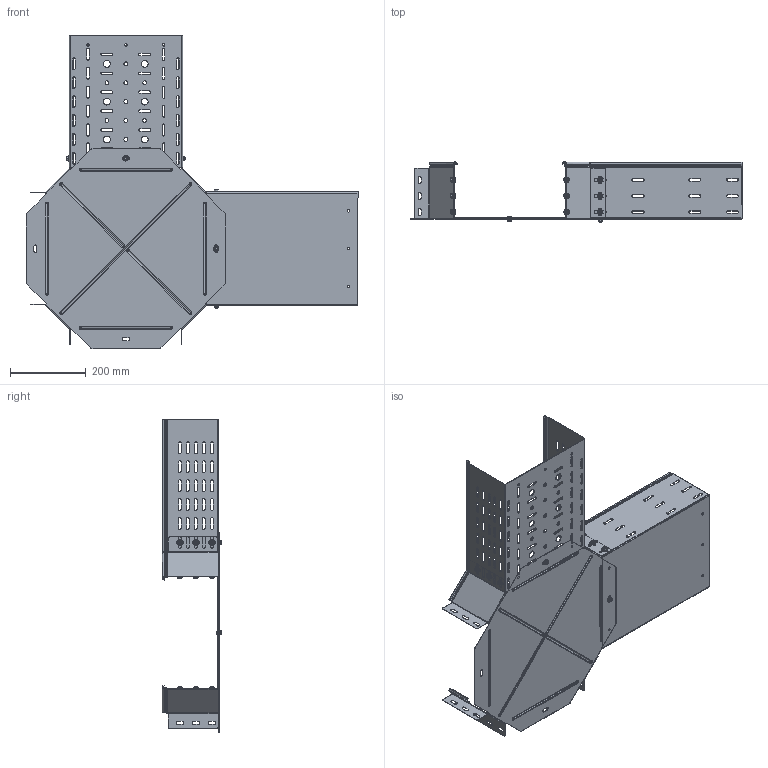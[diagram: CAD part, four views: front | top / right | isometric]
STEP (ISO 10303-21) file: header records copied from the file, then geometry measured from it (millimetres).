
FILE_DESCRIPTION (( 'STEP AP214' ), '1' );
FILE_NAME ('ﾓﾑﾕﾐ+ﾓﾋ(ﾍ)+ﾓﾋ(ﾏ)_150.STEP', '2016-10-06T20:11:05', ( '' ), ( '' ), 'SwSTEP 2.0', 'SolidWorks 2016', '' );
FILE_SCHEMA (( 'AUTOMOTIVE_DESIGN' ));
Length unit declared in the file: millimetre
Products named in the file (6): pan head cross recess screw_din_ISO 7045 - M6 x 10 - Z --- 10N; hex flange nut_din_Hexagon Flange Nut DIN 6923 - M6 - N; ÓË(Ï)-300õÍõ550_3000.1,5.300.150; ÓË(Í)-300õÍõ550_3000.1,5.300.150; 080830 ÓÑÕÐ-300õ150; ﾓﾑﾕﾐ+ﾓﾋ(ﾍ)+ﾓﾋ(ﾏ)_150
Assembly tree (31 placements, depth 2):
  ﾓﾑﾕﾐ+ﾓﾋ(ﾍ)+ﾓﾋ(ﾏ)_150
    080830 ÓÑÕÐ-300õ150
    ÓË(Í)-300õÍõ550_3000.1,5.300.150
    ÓË(Ï)-300õÍõ550_3000.1,5.300.150
    hex flange nut_din_Hexagon Flange Nut DIN 6923 - M6 - N  x14
    pan head cross recess screw_din_ISO 7045 - M6 x 10 - Z --- 10N  x14
Bounding box: 878 x 158.5 x 828 mm (x, y, z)
Volume: 993500 mm3; surface area: 1559513.6 mm2
Topology: 31 solids, 31 shells, 2152 faces, 5436 edges, 3346 vertices
Faces by surface type: plane 918, cylinder 722, cone 252, torus 112, bspline 92, sphere 56
Entity records: 41508 total; most frequent: CARTESIAN_POINT 7367, DIRECTION 7334, ORIENTED_EDGE 6864, EDGE_CURVE 3432, AXIS2_PLACEMENT_3D 2660, VERTEX_POINT 2163, VECTOR 2014, LINE 2014
